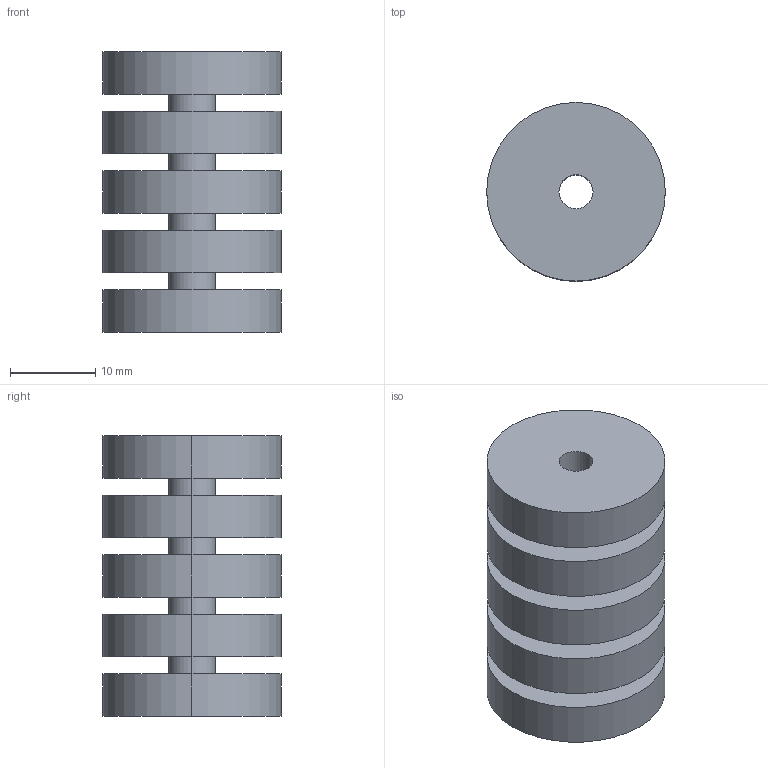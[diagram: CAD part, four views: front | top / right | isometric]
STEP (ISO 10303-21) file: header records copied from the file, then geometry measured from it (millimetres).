
FILE_DESCRIPTION(('CATIA V5 STEP Exchange'),'2;1');
FILE_NAME('G:\够快云库\系统集成开发部\1.部门成员\孙国\3D-stp打印件\1222\GZ-QM06_V1 推盘.stp','2020-12-22T08:33:47+00:00',('none'),('none'),'CATIA Version 5 Release 20 GA (IN-10)','CATIA V5 STEP AP203','none');
FILE_SCHEMA(('CONFIG_CONTROL_DESIGN'));
Length unit declared in the file: millimetre
Products named in the file (1): 推盘
Bounding box: 21 x 21 x 33 mm (x, y, z)
Volume: 8434.4 mm3; surface area: 5450.7 mm2
Topology: 1 solids, 1 shells, 30 faces, 60 edges, 40 vertices
Faces by surface type: cylinder 20, plane 10
Entity records: 725 total; most frequent: ORIENTED_EDGE 120, CARTESIAN_POINT 114, DIRECTION 86, EDGE_CURVE 60, AXIS2_PLACEMENT_3D 54, CIRCLE 40, EDGE_LOOP 40, VERTEX_POINT 40
